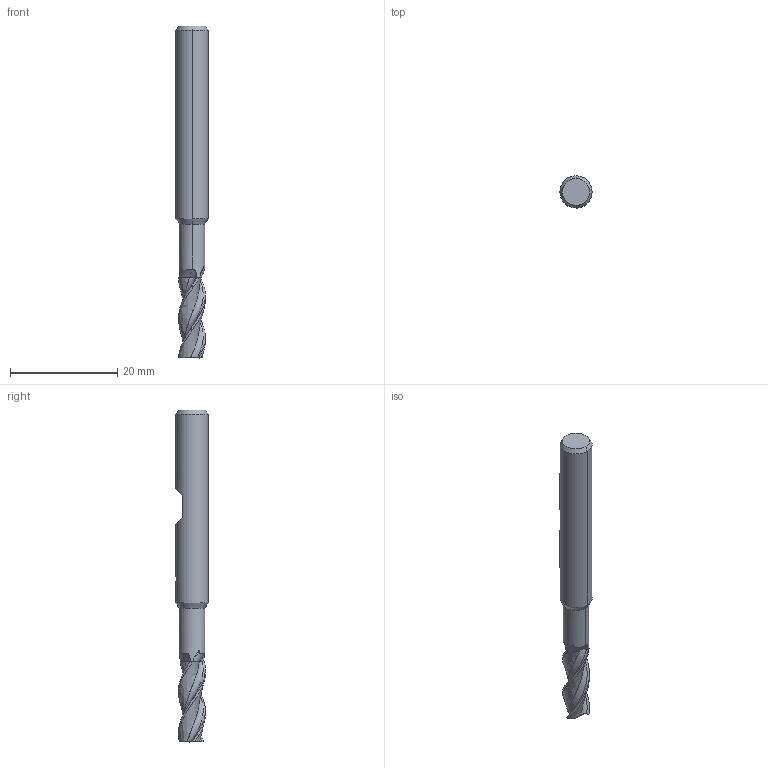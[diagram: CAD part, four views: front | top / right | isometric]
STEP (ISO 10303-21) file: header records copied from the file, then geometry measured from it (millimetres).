
FILE_DESCRIPTION(('no description'),'unknown implementation level');
FILE_NAME('solidT7qvx76WUV_qt453fMpimcxMgLQ_1.STP',' ',('CIMSOURCE GmbH'),('CADClick - KiM GmbH - www.kimweb.de'),'unknown preprocess','ACIS','unknown authorization');
FILE_SCHEMA(('automotive_design'));
Length unit declared in the file: millimetre
Products named in the file (2): NOCUT; CUT
Bounding box: 6 x 6 x 62 mm (x, y, z)
Volume: 1352.4 mm3; surface area: 1352.1 mm2
Topology: 2 solids, 2 shells, 112 faces, 306 edges, 197 vertices
Faces by surface type: bspline 36, plane 29, cone 19, cylinder 16, revolution 12
Entity records: 16919 total; most frequent: CARTESIAN_POINT 11018, STYLED_ITEM 617, PRESENTATION_STYLE_ASSIGNMENT 617, COLOUR_RGB 617, ORIENTED_EDGE 612, DIRECTION 355, EDGE_CURVE 306, CURVE_STYLE 306
